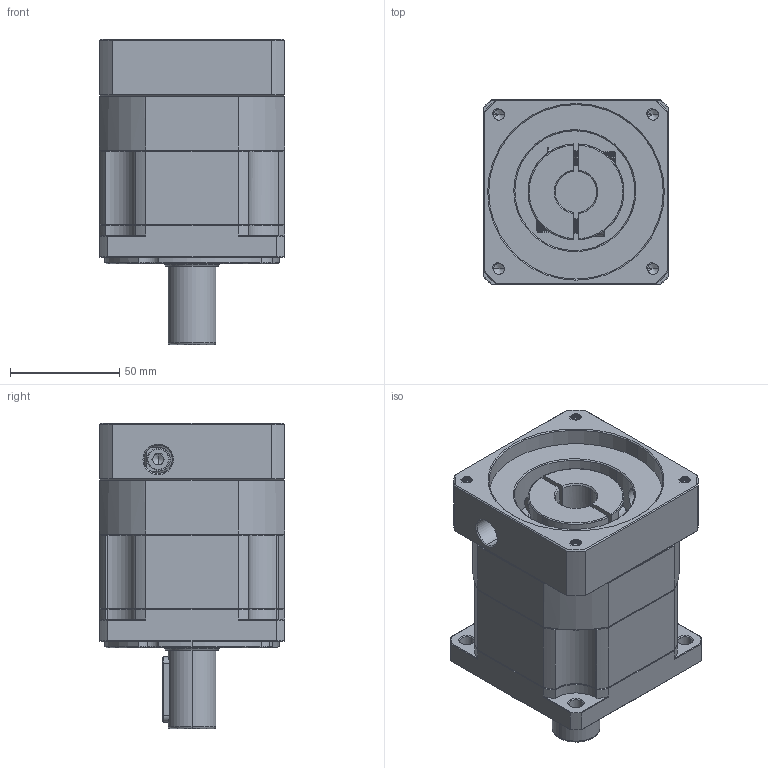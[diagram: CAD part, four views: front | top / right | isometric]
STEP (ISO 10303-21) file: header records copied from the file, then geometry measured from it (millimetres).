
FILE_DESCRIPTION (( 'STEP AP214' ), '1' );
FILE_NAME ('ZB090-D22-L1-P2-19-80-100-M6.step', '2023-08-18T12:13:14', ( '' ), ( '' ), 'SwSTEP 2.0', 'SolidWorks 2016', '' );
FILE_SCHEMA (( 'AUTOMOTIVE_DESIGN' ));
Length unit declared in the file: millimetre
Products named in the file (1): ZB090-D22-L1-P2-19-80-100-M6
Bounding box: 85 x 85 x 140 mm (x, y, z)
Volume: 599399.8 mm3; surface area: 86660.1 mm2
Topology: 4 solids, 5 shells, 2220 faces, 5886 edges, 3751 vertices
Faces by surface type: plane 1066, bspline 397, cylinder 396, cone 334, torus 27
Entity records: 120653 total; most frequent: CARTESIAN_POINT 44566, ORIENTED_EDGE 11728, DIRECTION 9172, EDGE_CURVE 5864, VERTEX_POINT 3751, VECTOR 3724, LINE 3724, AXIS2_PLACEMENT_3D 2724
